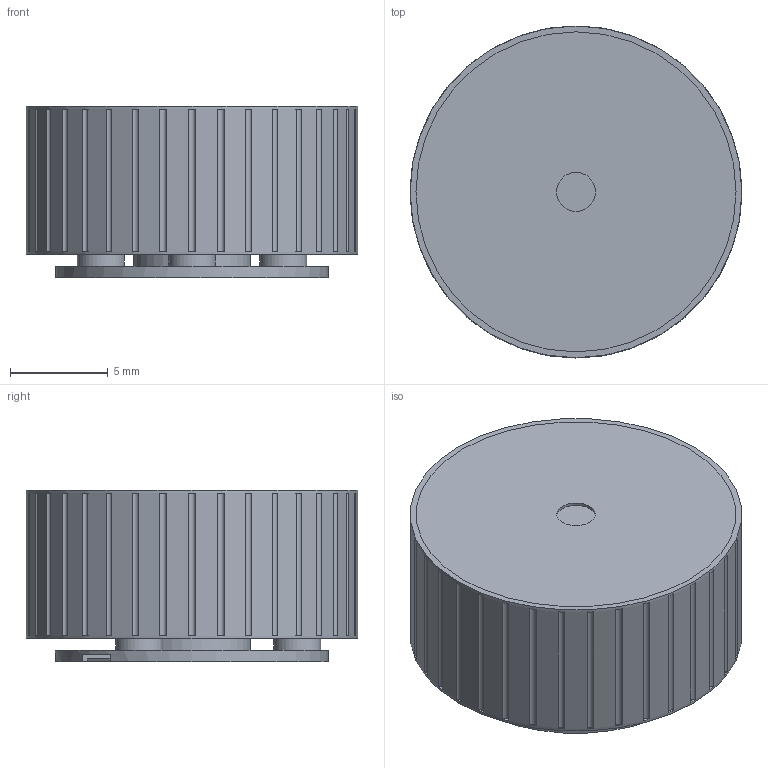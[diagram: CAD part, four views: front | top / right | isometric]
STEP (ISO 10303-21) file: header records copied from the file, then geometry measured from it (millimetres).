
FILE_DESCRIPTION(/* description */ ('12-slot / 14-pole custom brushless haptic wheel. Rotation only. Native Fusion reconstruction of 2026-10-24 R0; concept/prototype, not manufacturing release.'),/* implementation_level */ '2;1');
FILE_NAME(/* name */ 'HW17-R0-Fusion.step',/* time_stamp */ '2026-10-29T11:14:24+08:00',/* author */ (''),/* organization */ (''),/* preprocessor_version */ 'ST-DEVELOPER v20.2',/* originating_system */ 'Autodesk Translation Framework v15.17.0.0',/* authorisation */ '');
FILE_SCHEMA (('AUTOMOTIVE_DESIGN { 1 0 10303 214 3 1 1 }'));
Length unit declared in the file: centimetre
Products named in the file (44): 2026-10-29-11-14-16-184; 2026-10-29-11-14-16-259; HW17-R0-06_stator_carrier; HW17-R0-07_stator_stack; HW17-R0-08_coil_01_Ap; HW17-R0-08_coil_02_An; HW17-R0-08_coil_03_Bn; HW17-R0-08_coil_04_Bp; HW17-R0-08_coil_05_Cp; HW17-R0-08_coil_06_Cn; HW17-R0-08_coil_07_An; HW17-R0-08_coil_08_Ap; HW17-R0-08_coil_09_Bp; HW17-R0-08_coil_10_Bn; HW17-R0-08_coil_11_Cn; HW17-R0-08_coil_12_Cp; HW17-R0-09_bearing_1; HW17-R0-09_bearing_2; HW17-R0-11_lower_outer_retainer; HW17-R0-12_upper_outer_retainer; HW17-R0-14_sensor_flex; HW17-R0-15_MT6701_max_envelope; HW17-R0-16_sensor_decoupling; 2026-10-29-11-14-16-256; HW17-R0-01_grip_ring; HW17-R0-02_rotor_back_iron; HW17-R0-03_rotor_cap; HW17-R0-04_rotor_shaft; HW17-R0-05_magnet_01_N; HW17-R0-05_magnet_02_S; HW17-R0-05_magnet_03_N; HW17-R0-05_magnet_04_S; HW17-R0-05_magnet_05_N; HW17-R0-05_magnet_06_S; HW17-R0-05_magnet_07_N; HW17-R0-05_magnet_08_S; HW17-R0-05_magnet_09_N; HW17-R0-05_magnet_10_S; HW17-R0-05_magnet_11_N; HW17-R0-05_magnet_12_S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
Assembly tree (43 placements, depth 3):
  2026-10-29-11-14-16-184
    2026-10-29-11-14-16-259
      HW17-R0-06_stator_carrier
      HW17-R0-07_stator_stack
      HW17-R0-08_coil_01_Ap
      HW17-R0-08_coil_02_An
      HW17-R0-08_coil_03_Bn
      HW17-R0-08_coil_04_Bp
      HW17-R0-08_coil_05_Cp
      HW17-R0-08_coil_06_Cn
      HW17-R0-08_coil_07_An
      HW17-R0-08_coil_08_Ap
      HW17-R0-08_coil_09_Bp
      HW17-R0-08_coil_10_Bn
      HW17-R0-08_coil_11_Cn
      HW17-R0-08_coil_12_Cp
      HW17-R0-09_bearing_1
      HW17-R0-09_bearing_2
      HW17-R0-11_lower_outer_retainer
      HW17-R0-12_upper_outer_retainer
      HW17-R0-14_sensor_flex
      HW17-R0-15_MT6701_max_envelope
      HW17-R0-16_sensor_decoupling
    2026-10-29-11-14-16-256
      HW17-R0-01_grip_ring
      HW17-R0-02_rotor_back_iron
      HW17-R0-03_rotor_cap
      HW17-R0-04_rotor_shaft
      HW17-R0-05_magnet_01_N
      HW17-R0-05_magnet_02_S
      HW17-R0-05_magnet_03_N
      HW17-R0-05_magnet_04_S
      HW17-R0-05_magnet_05_N
      HW17-R0-05_magnet_06_S
      HW17-R0-05_magnet_07_N
      HW17-R0-05_magnet_08_S
      HW17-R0-05_magnet_09_N
      HW17-R0-05_magnet_10_S
      HW17-R0-05_magnet_11_N
      HW17-R0-05_magnet_12_S
      HW17-R0-05_magnet_13_N
      HW17-R0-05_magnet_14_S
      HW17-R0-10_inner_spacer
      HW17-R0-13_sensor_magnet
Bounding box: 17 x 17 x 8.8 mm (x, y, z)
Volume: 1254.3 mm3; surface area: 5024.8 mm2
Topology: 41 solids, 41 shells, 508 faces, 1131 edges, 754 vertices
Faces by surface type: plane 357, cylinder 151
Full cylindrical faces by diameter (mm): 0.9 x1, 1.1 x3, 2 x5, 2.4 x3, 2.6 x3, 2.8 x1, 4 x1, 4.5 x3, 5 x6, 5.5 x1, 6 x1, 6.1 x1, 6.4 x1, 14 x2, 15.36 x1, 15.4 x1, 16.4 x3, 17 x1
Entity records: 15721 total; most frequent: DIRECTION 2703, CARTESIAN_POINT 2480, ORIENTED_EDGE 2262, EDGE_CURVE 1131, AXIS2_PLACEMENT_3D 977, VERTEX_POINT 754, LINE 749, VECTOR 749
